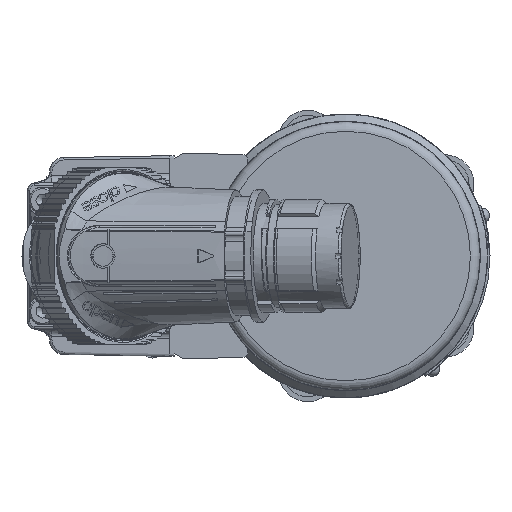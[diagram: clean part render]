
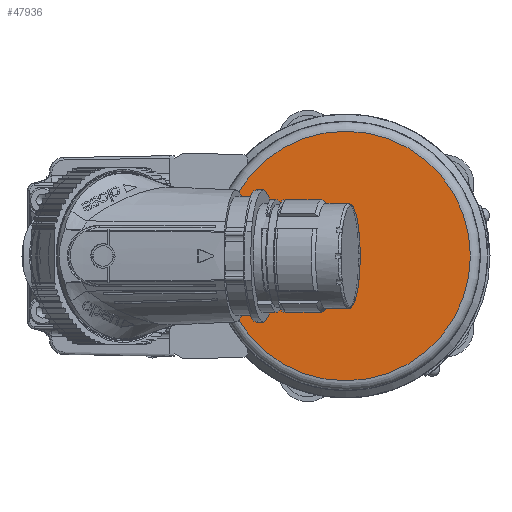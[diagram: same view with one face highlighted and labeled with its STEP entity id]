
A CAD part, left-side view. The second image highlights one B-rep face of the part: STEP entity #47936.
In plain terms, the highlighted planar face has unit normal (-1, 0, 0).
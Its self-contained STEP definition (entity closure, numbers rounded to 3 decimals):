
#1789 = DIRECTION ( 'NONE',  ( -1., 0., 0. ) ) ;
#12227 = CARTESIAN_POINT ( 'NONE',  ( -348.4, 0., 0. ) ) ;
#14092 = ORIENTED_EDGE ( 'NONE', *, *, #26731, .T. ) ;
#15855 = EDGE_LOOP ( 'NONE', ( #14092 ) ) ;
#26731 = EDGE_CURVE ( 'NONE', #81919, #81919, #53421, .T. ) ;
#39707 = AXIS2_PLACEMENT_3D ( 'NONE', #12227, #85237, #72162 ) ;
#41699 = CARTESIAN_POINT ( 'NONE',  ( -348.4, 0., 0. ) ) ;
#47936 = ADVANCED_FACE ( 'NONE', ( #61588 ), #65353, .T. ) ;
#48340 = DIRECTION ( 'NONE',  ( 0., 0., 1. ) ) ;
#53421 = CIRCLE ( 'NONE', #83174, 25.5 ) ;
#61588 = FACE_OUTER_BOUND ( 'NONE', #15855, .T. ) ;
#65353 = PLANE ( 'NONE',  #39707 ) ;
#72162 = DIRECTION ( 'NONE',  ( 0., 0., 1. ) ) ;
#78219 = CARTESIAN_POINT ( 'NONE',  ( -348.4, 0., 25.5 ) ) ;
#81919 = VERTEX_POINT ( 'NONE', #78219 ) ;
#83174 = AXIS2_PLACEMENT_3D ( 'NONE', #41699, #1789, #48340 ) ;
#85237 = DIRECTION ( 'NONE',  ( -1., 0., 0. ) ) ;
